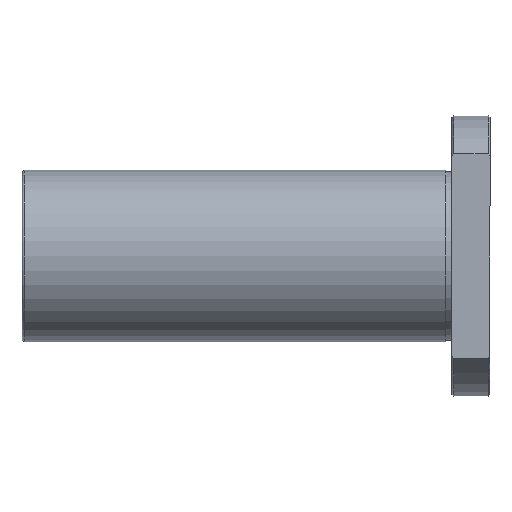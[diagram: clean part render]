
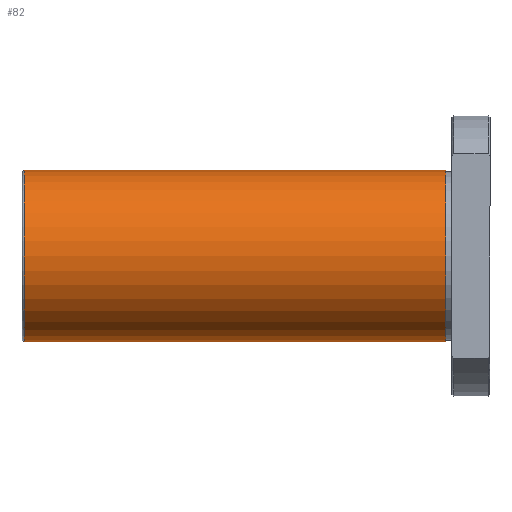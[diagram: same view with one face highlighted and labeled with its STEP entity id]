
A CAD part, front view. The second image highlights one B-rep face of the part: STEP entity #82.
In plain terms, the highlighted cylindrical face has radius 22.5 mm (diameter 45 mm), a full revolution.
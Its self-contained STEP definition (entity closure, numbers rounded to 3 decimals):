
#82=ADVANCED_FACE('',(#124,#125),#126,.T.);
#124=FACE_OUTER_BOUND('',#208,.T.);
#125=FACE_OUTER_BOUND('',#209,.T.);
#126=CYLINDRICAL_SURFACE('',#210,22.5);
#208=EDGE_LOOP('',(#328));
#209=EDGE_LOOP('',(#329));
#210=AXIS2_PLACEMENT_3D('',#330,#331,#332);
#328=ORIENTED_EDGE('',*,*,#478,.T.);
#329=ORIENTED_EDGE('',*,*,#479,.F.);
#330=CARTESIAN_POINT('',(-37.5,0.0,0.));
#331=DIRECTION('',(-1.0,-0.0,0.));
#332=DIRECTION('',(0.0,1.0,0.0));
#478=EDGE_CURVE('',#548,#548,#549,.T.);
#479=EDGE_CURVE('',#550,#550,#551,.T.);
#548=VERTEX_POINT('',#661);
#549=CIRCLE('',#662,22.5);
#550=VERTEX_POINT('',#663);
#551=CIRCLE('',#664,22.5);
#661=CARTESIAN_POINT('',(-11.6,22.5,0.));
#662=AXIS2_PLACEMENT_3D('',#752,#753,#754);
#663=CARTESIAN_POINT('',(-122.4,22.5,0.));
#664=AXIS2_PLACEMENT_3D('',#755,#756,#757);
#752=CARTESIAN_POINT('',(-11.6,0.0,0.));
#753=DIRECTION('',(-1.0,0.0,0.));
#754=DIRECTION('',(0.0,1.0,0.0));
#755=CARTESIAN_POINT('',(-122.4,0.0,0.));
#756=DIRECTION('',(-1.0,0.0,0.));
#757=DIRECTION('',(0.0,1.0,0.0));
